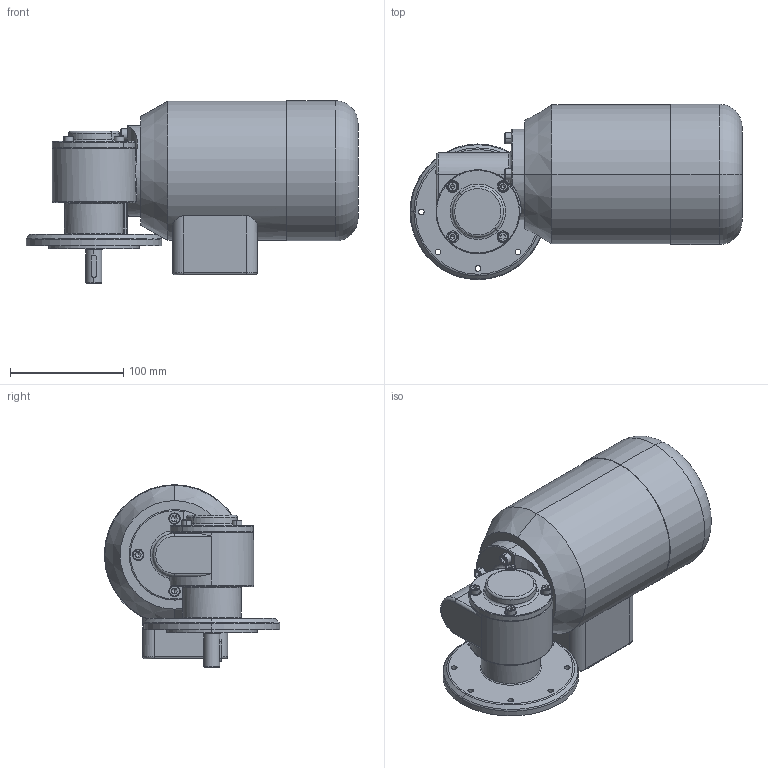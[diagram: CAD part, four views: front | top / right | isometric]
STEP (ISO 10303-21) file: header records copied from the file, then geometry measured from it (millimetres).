
FILE_DESCRIPTION (( 'STEP AP214' ), '1' );
FILE_NAME ('SN3F_120W_180W_250W_B.STEP', '2021-03-16T08:02:28', ( '' ), ( '' ), 'SwSTEP 2.0', 'SolidWorks 2019', '' );
FILE_SCHEMA (( 'AUTOMOTIVE_DESIGN' ));
Length unit declared in the file: millimetre
Products named in the file (1): SN3F_120W_180W_250W_B
Bounding box: 293.5 x 155 x 161.4 mm (x, y, z)
Surface area: 162418 mm2 (no closed solid volume)
Topology: 0 solids, 16 shells, 262 faces, 715 edges, 446 vertices
Faces by surface type: cylinder 93, plane 92, cone 40, torus 35, sphere 2
Entity records: 11491 total; most frequent: CARTESIAN_POINT 1888, DIRECTION 1527, ORIENTED_EDGE 1244, EDGE_CURVE 701, AXIS2_PLACEMENT_3D 601, VERTEX_POINT 446, CIRCLE 338, LINE 325
